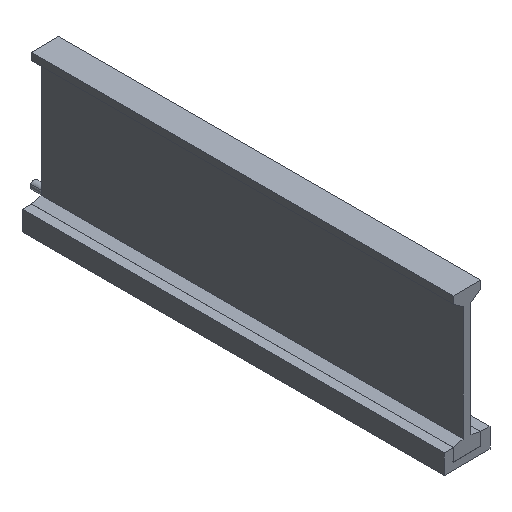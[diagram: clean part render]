
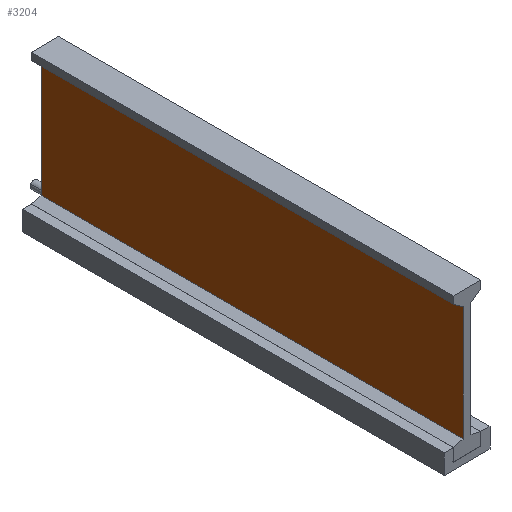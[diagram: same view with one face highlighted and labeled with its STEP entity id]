
A CAD part, isometric view. The second image highlights one B-rep face of the part: STEP entity #3204.
In plain terms, the highlighted planar face has unit normal (-1, 0, 0) as drawn and (1, 0, 0) by its records, which use the part's own axes.
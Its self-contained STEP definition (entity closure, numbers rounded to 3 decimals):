
#41 = EDGE_CURVE ( 'NONE', #4928, #2770, #3181, .T. ) ;
#84 = VECTOR ( 'NONE', #1420, 1000. ) ;
#94 = VERTEX_POINT ( 'NONE', #1149 ) ;
#210 = ORIENTED_EDGE ( 'NONE', *, *, #2424, .F. ) ;
#371 = CARTESIAN_POINT ( 'NONE',  ( 21.35, 17.11, 505. ) ) ;
#1014 = CARTESIAN_POINT ( 'NONE',  ( 21.35, 17.11, 0. ) ) ;
#1037 = EDGE_LOOP ( 'NONE', ( #2222, #210, #2569, #2160 ) ) ;
#1149 = CARTESIAN_POINT ( 'NONE',  ( 21.35, 17.11, 505. ) ) ;
#1420 = DIRECTION ( 'NONE',  ( 0., 0., -1. ) ) ;
#1647 = CARTESIAN_POINT ( 'NONE',  ( 21.35, 17.11, 0. ) ) ;
#1987 = DIRECTION ( 'NONE',  ( 0., 0., -1. ) ) ;
#2105 = DIRECTION ( 'NONE',  ( 0., 0., 1. ) ) ;
#2160 = ORIENTED_EDGE ( 'NONE', *, *, #2240, .T. ) ;
#2222 = ORIENTED_EDGE ( 'NONE', *, *, #41, .T. ) ;
#2240 = EDGE_CURVE ( 'NONE', #94, #4928, #2498, .T. ) ;
#2424 = EDGE_CURVE ( 'NONE', #3884, #2770, #3965, .T. ) ;
#2472 = CARTESIAN_POINT ( 'NONE',  ( 21.35, 17.11, 505. ) ) ;
#2498 = LINE ( 'NONE', #2472, #4478 ) ;
#2569 = ORIENTED_EDGE ( 'NONE', *, *, #4936, .F. ) ;
#2595 = CARTESIAN_POINT ( 'NONE',  ( 21.35, 154.11, 505. ) ) ;
#2660 = VECTOR ( 'NONE', #5074, 1000. ) ;
#2770 = VERTEX_POINT ( 'NONE', #4342 ) ;
#3115 = VECTOR ( 'NONE', #4687, 1000. ) ;
#3181 = LINE ( 'NONE', #1014, #2660 ) ;
#3204 = ADVANCED_FACE ( 'NONE', ( #3907 ), #5611, .F. ) ;
#3573 = CARTESIAN_POINT ( 'NONE',  ( 21.35, 154.11, 505. ) ) ;
#3884 = VERTEX_POINT ( 'NONE', #2595 ) ;
#3907 = FACE_OUTER_BOUND ( 'NONE', #1037, .T. ) ;
#3965 = LINE ( 'NONE', #3573, #84 ) ;
#4304 = CARTESIAN_POINT ( 'NONE',  ( 21.35, 17.11, 505. ) ) ;
#4313 = DIRECTION ( 'NONE',  ( -1., 0., 0. ) ) ;
#4324 = LINE ( 'NONE', #4304, #3115 ) ;
#4342 = CARTESIAN_POINT ( 'NONE',  ( 21.35, 154.11, 0. ) ) ;
#4373 = AXIS2_PLACEMENT_3D ( 'NONE', #371, #4313, #2105 ) ;
#4478 = VECTOR ( 'NONE', #1987, 1000. ) ;
#4687 = DIRECTION ( 'NONE',  ( 0., 1., 0. ) ) ;
#4928 = VERTEX_POINT ( 'NONE', #1647 ) ;
#4936 = EDGE_CURVE ( 'NONE', #94, #3884, #4324, .T. ) ;
#5074 = DIRECTION ( 'NONE',  ( 0., 1., 0. ) ) ;
#5611 = PLANE ( 'NONE',  #4373 ) ;
